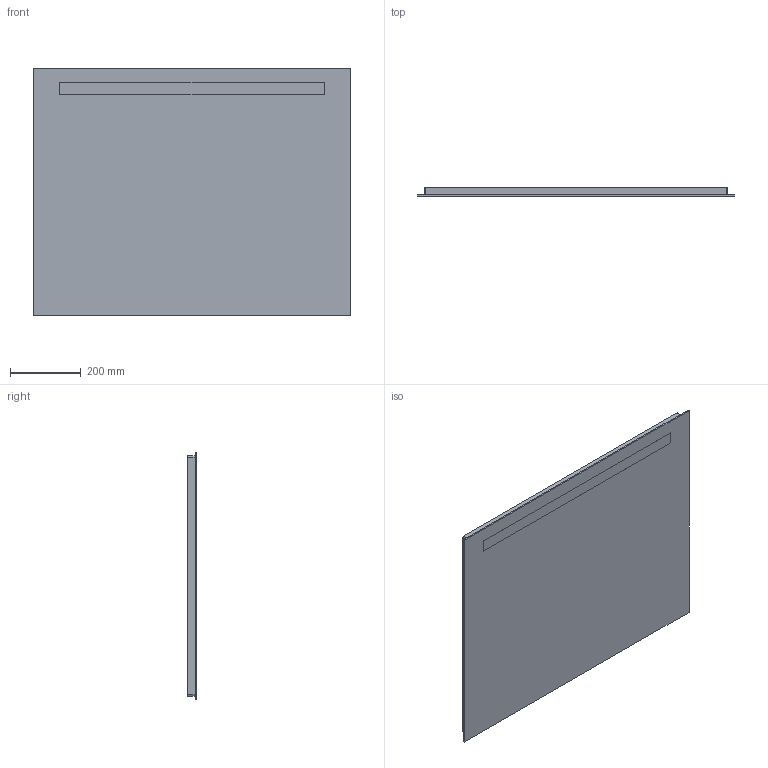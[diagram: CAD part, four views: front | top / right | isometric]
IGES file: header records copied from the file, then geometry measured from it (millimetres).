
Global section: file name: 502808; native system: Autodesk Inventor 2021; preprocessor: unknown; author: JANAN; date: 20221202.151208; units: millimetre
Bounding box: 900 x 26 x 700 mm (x, y, z)
Volume: 15380793.9 mm3; surface area: 2511193.9 mm2
Topology: 2 solids, 2 shells, 29 faces, 68 edges, 48 vertices
Faces by surface type: bspline 29
